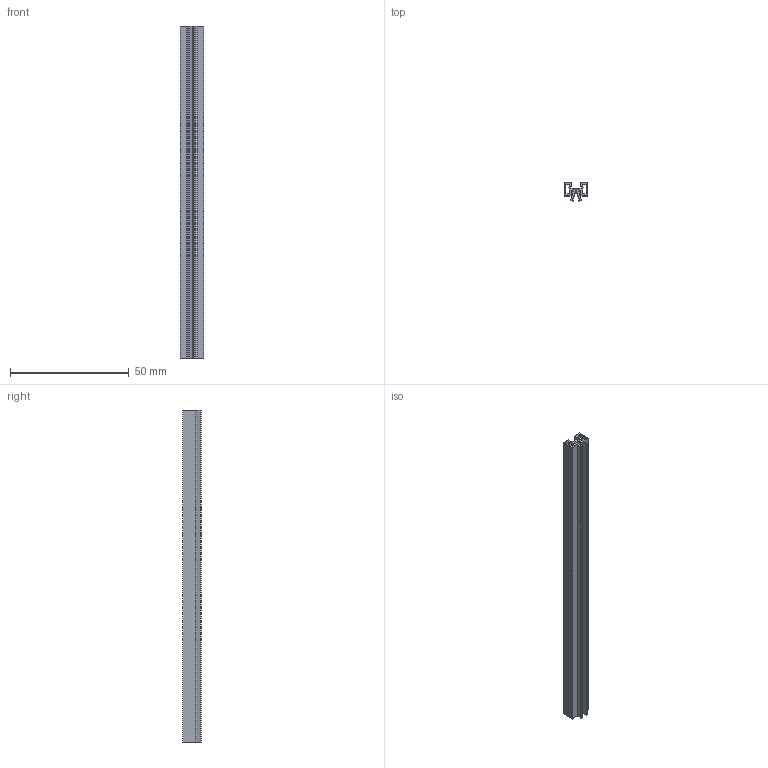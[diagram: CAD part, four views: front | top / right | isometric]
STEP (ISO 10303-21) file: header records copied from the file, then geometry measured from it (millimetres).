
FILE_DESCRIPTION(/* description */ (''),/* implementation_level */ '2;1');
FILE_NAME(/* name */ 'C:/Users/priba/Documents/Temp/Backup/Brick 1x14x0.55 v3.step',/* time_stamp */ '2019-07-02T17:27:24+02:00',/* author */ (''),/* organization */ (''),/* preprocessor_version */ 'ST-DEVELOPER v18',/* originating_system */ 'Autodesk Translation Framework v8.2.0.1029',/* authorisation */ '');
FILE_SCHEMA (('AUTOMOTIVE_DESIGN { 1 0 10303 214 3 1 1 }'));
Length unit declared in the file: millimetre
Products named in the file (1): Brick 1x14x0.55
Bounding box: 10 x 7.81 x 140 mm (x, y, z)
Volume: 4559.8 mm3; surface area: 12048 mm2
Topology: 1 solids, 1 shells, 52 faces, 144 edges, 96 vertices
Faces by surface type: plane 52
Entity records: 1658 total; most frequent: CARTESIAN_POINT 293, ORIENTED_EDGE 288, DIRECTION 250, LINE 144, VECTOR 144, EDGE_CURVE 144, VERTEX_POINT 96, EDGE_LOOP 58
